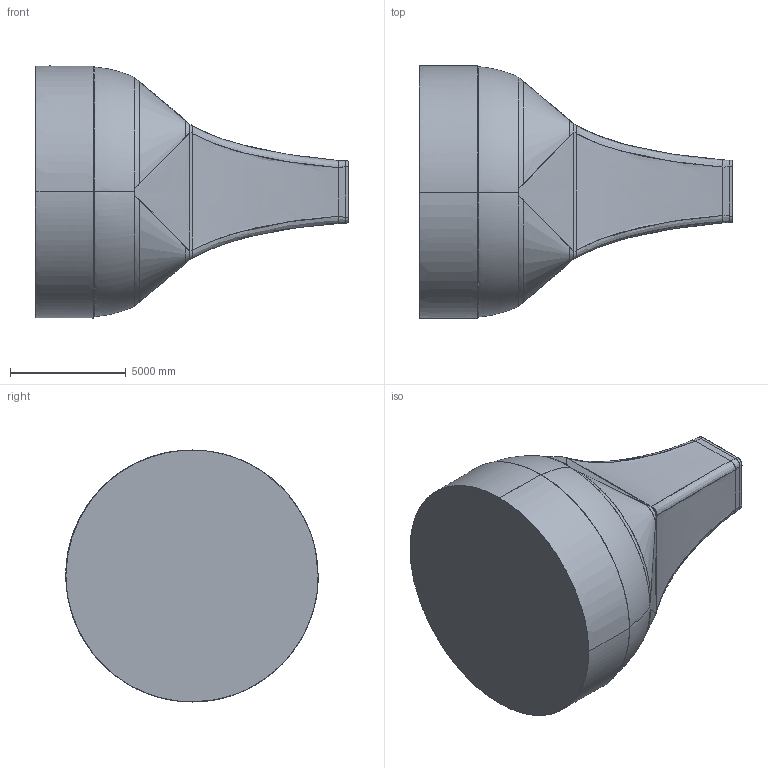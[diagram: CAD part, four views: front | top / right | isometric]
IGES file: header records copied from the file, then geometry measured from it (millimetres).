
Global section: file name: Z:\prj2.1\wind_tunnels\NTF\outgoing\NTF_Rumsey_October_2023\NTF_Inlet_Contraction_2023_10_02.igs; native system: NX V12.0; preprocessor: SIEMENS PLM Software NX 12.0; date: 20231003.101731; units: inch
Bounding box: 13500.81 x 10884.51 x 10865.39 mm (x, y, z)
Surface area: 426288153.7 mm2 (no closed solid volume)
Topology: 0 solids, 0 shells, 62 faces, 1553 edges, 1553 vertices
Faces by surface type: bspline 62
